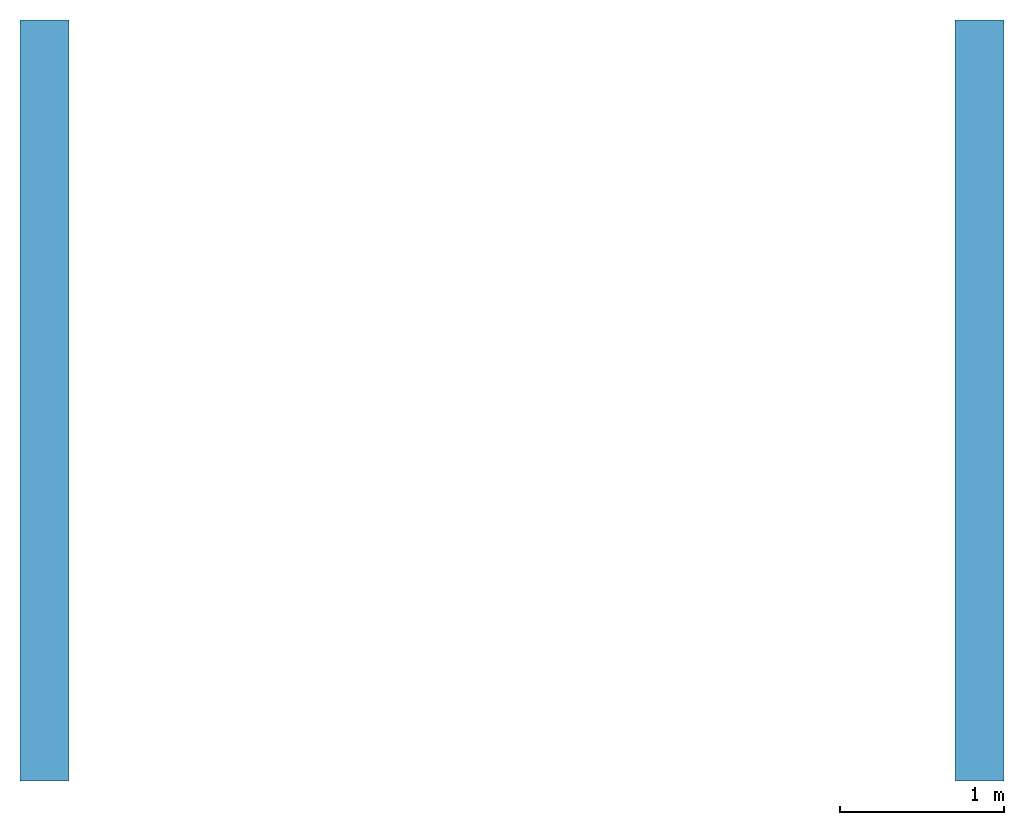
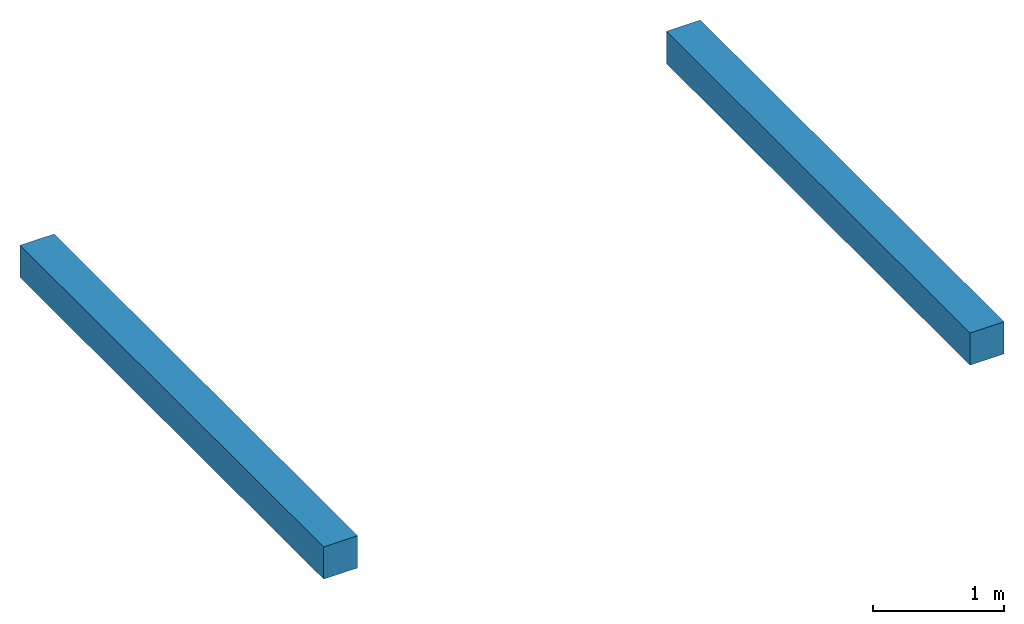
# One storey: 2 walls.
"""IFC2X3 building model written with IfcOpenShell, lengths in metres."""

from ifc_helpers import new_model, entity, si_unit, converted_unit, derived_unit, direction, frame, frame_2d, origin, place, context, subcontext, project, spatial, rectangle, extrude, material, layer, layer_set, layer_usage, type_object, element, save


model = new_model("IFC2X3")

# Units and contexts
model_context = context("Model", 3, precision=1e-05, world=origin(), true_north=direction((6.12303176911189e-17, 1.0)))
body_context = subcontext(model_context, "Body", "Model", "MODEL_VIEW")
ifc_project = project(units=[si_unit("LENGTHUNIT", "METRE"), si_unit("AREAUNIT", "SQUARE_METRE"), si_unit("VOLUMEUNIT", "CUBIC_METRE"), converted_unit("PLANEANGLEUNIT", "DEGREE", entity("IfcRatioMeasure", 0.0174532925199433), si_unit("PLANEANGLEUNIT", "RADIAN"), dimensions=[0, 0, 0, 0, 0, 0, 0]), si_unit("MASSUNIT", "GRAM", prefix="KILO"), derived_unit("MASSDENSITYUNIT", [(si_unit("MASSUNIT", "GRAM", prefix="KILO"), 1), (si_unit("LENGTHUNIT", "METRE"), -3)]), si_unit("TIMEUNIT", "SECOND"), si_unit("FREQUENCYUNIT", "HERTZ"), si_unit("THERMODYNAMICTEMPERATUREUNIT", "DEGREE_CELSIUS"), derived_unit("THERMALTRANSMITTANCEUNIT", [(si_unit("MASSUNIT", "GRAM", prefix="KILO"), 1), (si_unit("THERMODYNAMICTEMPERATUREUNIT", "KELVIN"), -1), (si_unit("TIMEUNIT", "SECOND"), -3)]), derived_unit("VOLUMETRICFLOWRATEUNIT", [(si_unit("LENGTHUNIT", "METRE"), 3), (si_unit("TIMEUNIT", "SECOND"), -1)]), si_unit("ELECTRICCURRENTUNIT", "AMPERE"), si_unit("ELECTRICVOLTAGEUNIT", "VOLT"), si_unit("POWERUNIT", "WATT"), si_unit("FORCEUNIT", "NEWTON", prefix="KILO"), si_unit("ILLUMINANCEUNIT", "LUX"), si_unit("LUMINOUSFLUXUNIT", "LUMEN"), si_unit("LUMINOUSINTENSITYUNIT", "CANDELA"), derived_unit("USERDEFINED", [(si_unit("MASSUNIT", "GRAM", prefix="KILO"), -1), (si_unit("LENGTHUNIT", "METRE"), -2), (si_unit("TIMEUNIT", "SECOND"), 3), (si_unit("LUMINOUSFLUXUNIT", "LUMEN"), 1)]), derived_unit("LINEARVELOCITYUNIT", [(si_unit("LENGTHUNIT", "METRE"), 1), (si_unit("TIMEUNIT", "SECOND"), -1)]), si_unit("PRESSUREUNIT", "PASCAL"), derived_unit("USERDEFINED", [(si_unit("LENGTHUNIT", "METRE"), -2), (si_unit("MASSUNIT", "GRAM", prefix="KILO"), 1), (si_unit("TIMEUNIT", "SECOND"), -2)])], contexts=[model_context])

# Site, building, storey
site_placement = place(None, origin())
site = spatial("IfcSite", under=ifc_project, at=site_placement, Name="Default", CompositionType="ELEMENT")
building_placement = place(site_placement, origin())
building = spatial("IfcBuilding", under=site, at=building_placement, CompositionType="ELEMENT")
storey_placement = place(building_placement, frame((0.0, 0.0, 3.6)))
storey = spatial("IfcBuildingStorey", under=building, at=storey_placement, Name="Traverse extrados", CompositionType="ELEMENT", Elevation=3.6)

# Walls
ifc_material = material(Name="Béton, C35/45 G+S")
ifc_layer = layer(ifc_material, 0.3)
ifc_layer_set = layer_set([ifc_layer], Name="Mur de base:Poutre de couronnement")
ifc_layer_usage_1 = layer_usage(ifc_layer_set, "AXIS2", "NEGATIVE", 0.15)
wall_type = type_object("IfcWallType", Name="Mur de base:Poutre de couronnement", PredefinedType="STANDARD", material=ifc_layer_set)
wall_1_placement = place(storey_placement, frame((0.858814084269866, -2.59360173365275, 0.0), z_axis=(0.0, 0.0, 1.0), x_axis=(0.0, 1.0, 0.0)))
element("IfcWallStandardCase", 1, at=wall_1_placement, inside=storey, type_object=wall_type, material=ifc_layer_usage_1, Name="Mur de base:Poutre de couronnement", ObjectType="Mur de base:Poutre de couronnement", context=body_context, shape_type="SweptSolid", body=[
    extrude(rectangle(XDim=4.64, YDim=0.3, at=frame_2d((2.32, 2.77555756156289e-17), x_axis=(-1.0, 0.0))), origin(), (0.0, 0.0, 1.0), 0.3),
])
ifc_layer_usage_2 = layer_usage(ifc_layer_set, "AXIS2", "NEGATIVE", 0.15)
wall_2_placement = place(storey_placement, frame((6.55881408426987, 2.04639826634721, 0.0), z_axis=(0.0, 0.0, 1.0), x_axis=(0.0, -1.0, 0.0)))
element("IfcWallStandardCase", 2, at=wall_2_placement, inside=storey, type_object=wall_type, material=ifc_layer_usage_2, Name="Mur de base:Poutre de couronnement", ObjectType="Mur de base:Poutre de couronnement", context=body_context, shape_type="SweptSolid", body=[
    extrude(rectangle(XDim=4.63999999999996, YDim=0.299999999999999, at=frame_2d((2.31999999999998, 4.16333634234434e-17), x_axis=(-1.0, 0.0))), origin(), (0.0, 0.0, 1.0), 0.3),
])

save(model, "model.ifc")
